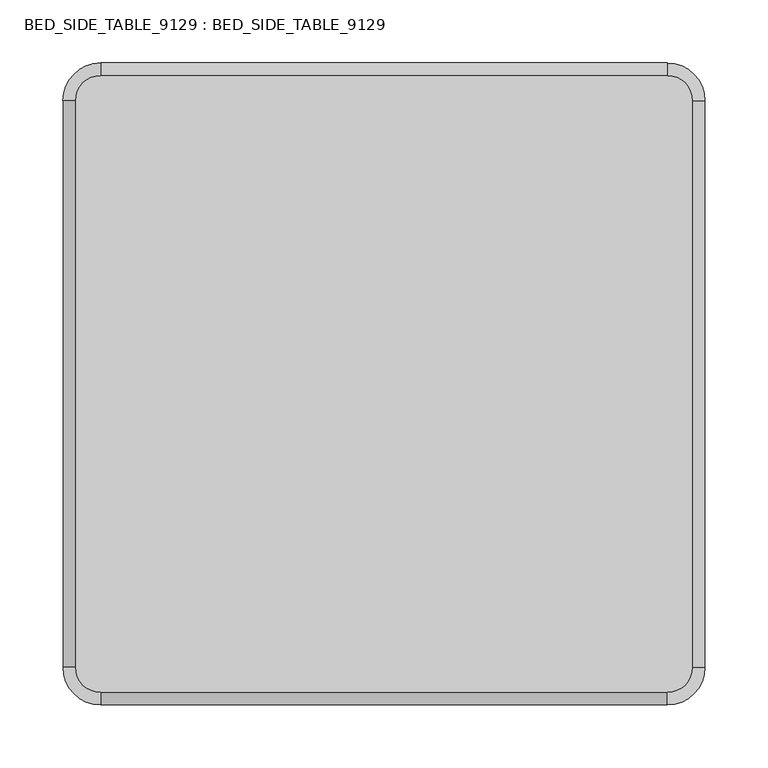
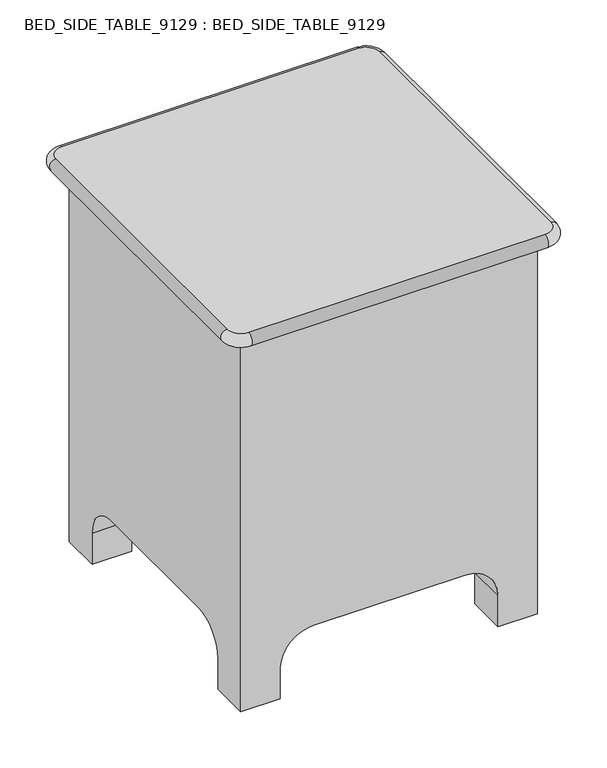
"""IFC4 building model written with IfcOpenShell, lengths in millimetres: furniture geometry, BED_SIDE_TABLE_9129 : BED_SIDE_TABLE_9129."""

from ifc_helpers import new_model, si_unit, point, frame, origin, place, context, project, spatial, polyline, circle_curve, ellipse_curve, trimmed, source, transform, mapped, element, save
from ifc_brep_helpers import plane_surface, cylinder_surface, revolved_surface, advanced_brep


def bed_side_table_9129_bed_side_table_9129_9961343a(model_context):
    return source(origin(), model_context, "Body", "AdvancedBrep", [
        advanced_brep(
        [(64.1710576, 203.2220246, 258.3333333), (64.1710576, 203.2220246, 250.9546193), (64.1710576, 203.2220246, 265.7120474), (11.6566154, 203.2220246, 250.9546193), (11.6566154, 203.2220246, 258.3333333), (11.6566154, 203.2220246, 265.7120474)],
        [
            (0, 1),
            (1, 2, circle_curve(frame((64.1710576, 203.2220246, 258.3333333), z_axis=(1.0, 0.0, 0.0), x_axis=(0.0, 0.0, 1.0)), 7.378714)),
            (2, 0),
            (2, 1, circle_curve(frame((64.1710576, 203.2220246, 258.3333333), z_axis=(1.0, 0.0, 0.0), x_axis=(0.0, 0.0, 1.0)), 7.378714)),
            (3, 4),
            (4, 5),
            (5, 3, circle_curve(frame((11.6566154, 203.2220246, 258.3333333), z_axis=(-1.0, 0.0, 0.0), x_axis=(0.0, 0.0, 1.0)), 7.378714)),
            (3, 5, circle_curve(frame((11.6566154, 203.2220246, 258.3333333), z_axis=(-1.0, 0.0, 0.0), x_axis=(0.0, 0.0, 1.0)), 7.378714)),
            (1, 3),
            (5, 2),
        ],
        [
            plane_surface(frame((64.1710576, 203.2220246, 258.3333333), z_axis=(1.0, 0.0, 0.0), x_axis=(0.0, 0.0, 1.0))),
            plane_surface(frame((11.6566154, 203.2220246, 258.3333333), z_axis=(-1.0, 0.0, 0.0), x_axis=(0.0, 0.0, 1.0))),
            cylinder_surface(frame((36.6566154, 203.2220246, 258.3333333), z_axis=(1.0, 0.0, 0.0), x_axis=(0.0, 0.0, 1.0)), 7.378714),
        ],
        [
            (0, [[1, 2, 3]]),
            (0, [[-3, 4, -1]]),
            (1, [[5, 6, 7]]),
            (1, [[-6, -5, 8]]),
            (2, [[9, -7, 10, -2]]),
            (2, [[-10, -8, -9, -4]]),
        ],
    ),
        advanced_brep(
        [(64.1710576, 203.2220246, 396.6666667), (64.1710576, 203.2220246, 389.2879526), (64.1710576, 203.2220246, 404.0453807), (11.6566154, 203.2220246, 389.2879526), (11.6566154, 203.2220246, 396.6666667), (11.6566154, 203.2220246, 404.0453807)],
        [
            (0, 1),
            (1, 2, circle_curve(frame((64.1710576, 203.2220246, 396.6666667), z_axis=(1.0, 0.0, 0.0), x_axis=(0.0, 0.0, 1.0)), 7.378714)),
            (2, 0),
            (2, 1, circle_curve(frame((64.1710576, 203.2220246, 396.6666667), z_axis=(1.0, 0.0, 0.0), x_axis=(0.0, 0.0, 1.0)), 7.378714)),
            (3, 4),
            (4, 5),
            (5, 3, circle_curve(frame((11.6566154, 203.2220246, 396.6666667), z_axis=(-1.0, 0.0, 0.0), x_axis=(0.0, 0.0, 1.0)), 7.378714)),
            (3, 5, circle_curve(frame((11.6566154, 203.2220246, 396.6666667), z_axis=(-1.0, 0.0, 0.0), x_axis=(0.0, 0.0, 1.0)), 7.378714)),
            (1, 3),
            (5, 2),
        ],
        [
            plane_surface(frame((64.1710576, 203.2220246, 396.6666667), z_axis=(1.0, 0.0, 0.0), x_axis=(0.0, 0.0, 1.0))),
            plane_surface(frame((11.6566154, 203.2220246, 396.6666667), z_axis=(-1.0, 0.0, 0.0), x_axis=(0.0, 0.0, 1.0))),
            cylinder_surface(frame((36.6566154, 203.2220246, 396.6666667), z_axis=(1.0, 0.0, 0.0), x_axis=(0.0, 0.0, 1.0)), 7.378714),
        ],
        [
            (0, [[1, 2, 3]]),
            (0, [[-3, 4, -1]]),
            (1, [[5, 6, 7]]),
            (1, [[-6, -5, 8]]),
            (2, [[9, -7, 10, -2]]),
            (2, [[-10, -8, -9, -4]]),
        ],
    ),
        advanced_brep(
        [(64.1710576, 203.2220246, 535.0), (64.1710576, 203.2220246, 527.621286), (64.1710576, 203.2220246, 542.378714), (11.6566154, 203.2220246, 527.621286), (11.6566154, 203.2220246, 535.0), (11.6566154, 203.2220246, 542.378714)],
        [
            (0, 1),
            (1, 2, circle_curve(frame((64.1710576, 203.2220246, 535.0), z_axis=(1.0, 0.0, 0.0), x_axis=(0.0, 0.0, 1.0)), 7.378714)),
            (2, 0),
            (2, 1, circle_curve(frame((64.1710576, 203.2220246, 535.0), z_axis=(1.0, 0.0, 0.0), x_axis=(0.0, 0.0, 1.0)), 7.378714)),
            (3, 4),
            (4, 5),
            (5, 3, circle_curve(frame((11.6566154, 203.2220246, 535.0), z_axis=(-1.0, 0.0, 0.0), x_axis=(0.0, 0.0, 1.0)), 7.378714)),
            (3, 5, circle_curve(frame((11.6566154, 203.2220246, 535.0), z_axis=(-1.0, 0.0, 0.0), x_axis=(0.0, 0.0, 1.0)), 7.378714)),
            (1, 3),
            (5, 2),
        ],
        [
            plane_surface(frame((64.1710576, 203.2220246, 535.0), z_axis=(1.0, 0.0, 0.0), x_axis=(0.0, 0.0, 1.0))),
            plane_surface(frame((11.6566154, 203.2220246, 535.0), z_axis=(-1.0, 0.0, 0.0), x_axis=(0.0, 0.0, 1.0))),
            cylinder_surface(frame((36.6566154, 203.2220246, 535.0), z_axis=(1.0, 0.0, 0.0), x_axis=(0.0, 0.0, 1.0)), 7.378714),
        ],
        [
            (0, [[1, 2, 3]]),
            (0, [[-3, 4, -1]]),
            (1, [[5, 6, 7]]),
            (1, [[-6, -5, 8]]),
            (2, [[9, -7, 10, -2]]),
            (2, [[-10, -8, -9, -4]]),
        ],
    ),
        advanced_brep(
        [(205.0, 177.5292073, 565.0), (-125.0, 177.5292073, 565.0), (-125.0, 177.5292073, 436.6666667), (205.0, 177.5292073, 436.6666667), (-105.5943818, 197.5292073, 545.5943818), (185.5943818, 197.5292073, 545.5943818), (185.5943818, 197.5292073, 456.0722849), (-105.5943818, 197.5292073, 456.0722849), (205.0, 182.3688336, 436.6666667), (205.0, 182.3688336, 565.0), (-125.0, 182.3688336, 436.6666667), (-125.0, 182.3688336, 565.0)],
        [
            (0, 1),
            (1, 2),
            (2, 3),
            (3, 0),
            (4, 5),
            (5, 6),
            (6, 7),
            (7, 4),
            (3, 8),
            (8, 9),
            (9, 0),
            (2, 10),
            (10, 8),
            (1, 11),
            (11, 10),
            (9, 11),
            (11, 4, ellipse_curve(frame((-105.5943818, 177.5292073, 545.5943818), z_axis=(-0.7071067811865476, 0.0, -0.7071067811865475), x_axis=(0.7071067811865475, 0.0, -0.7071067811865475)), 28.2842712, 20.0)),
            (7, 10, ellipse_curve(frame((-105.5943818, 177.5292073, 456.0722849), z_axis=(-0.7071067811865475, 0.0, 0.7071067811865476), x_axis=(-0.7071067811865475, 0.0, -0.7071067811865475)), 28.2842712, 20.0)),
            (6, 8, ellipse_curve(frame((185.5943818, 177.5292073, 456.0722849), z_axis=(-0.7071067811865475, 0.0, -0.7071067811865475), x_axis=(0.7071067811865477, 0.0, -0.7071067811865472)), 28.2842712, 20.0)),
            (5, 9, ellipse_curve(frame((185.5943818, 177.5292073, 545.5943818), z_axis=(0.7071067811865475, 0.0, -0.7071067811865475), x_axis=(0.7071067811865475, 0.0, 0.7071067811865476)), 28.2842712, 20.0)),
        ],
        [
            plane_surface(frame((205.0, 177.5292073, 565.0), z_axis=(0.0, -1.0, 0.0), x_axis=(0.0, 0.0, -1.0))),
            plane_surface(frame((205.0, 197.5292073, 565.0), z_axis=(0.0, 1.0, 0.0), x_axis=(0.0, 0.0, 1.0))),
            plane_surface(frame((205.0, 177.5292073, 565.0), z_axis=(1.0, 0.0, 0.0), x_axis=(0.0, 1.0, 0.0))),
            plane_surface(frame((205.0, 177.5292073, 436.6666667), z_axis=(0.0, 0.0, -1.0), x_axis=(0.0, 1.0, 0.0))),
            plane_surface(frame((-125.0, 177.5292073, 436.6666667), z_axis=(-1.0, 0.0, 0.0), x_axis=(0.0, 1.0, 0.0))),
            plane_surface(frame((-125.0, 177.5292073, 565.0), z_axis=(0.0, 0.0, 1.0), x_axis=(0.0, 1.0, 0.0))),
            cylinder_surface(frame((-105.5943818, 177.5292073, 565.0), z_axis=(0.0, 0.0, -1.0), x_axis=(0.0, 1.0, 0.0)), 20.0),
            cylinder_surface(frame((-125.0, 177.5292073, 456.0722849), z_axis=(1.0, 0.0, 0.0), x_axis=(0.0, 1.0, 0.0)), 20.0),
            cylinder_surface(frame((185.5943818, 177.5292073, 436.6666667), z_axis=(0.0, 0.0, 1.0), x_axis=(0.0, 1.0, 0.0)), 20.0),
            cylinder_surface(frame((205.0, 177.5292073, 545.5943818), z_axis=(-1.0, 0.0, 0.0), x_axis=(0.0, 1.0, 0.0)), 20.0),
        ],
        [
            (0, [[1, 2, 3, 4]]),
            (1, [[5, 6, 7, 8]]),
            (2, [[9, 10, 11, -4]]),
            (3, [[12, 13, -9, -3]]),
            (4, [[14, 15, -12, -2]]),
            (5, [[-11, 16, -14, -1]]),
            (6, [[-15, 17, -8, 18]]),
            (7, [[-13, -18, -7, 19]]),
            (8, [[-10, -19, -6, 20]]),
            (9, [[-5, -17, -16, -20]]),
        ],
    ),
        advanced_brep(
        [(-125.0, 177.5292073, 298.3333333), (205.0, 177.5292073, 298.3333333), (205.0, 177.5292073, 426.6666667), (-125.0, 177.5292073, 426.6666667), (-105.0, 197.5292073, 406.6666667), (185.0, 197.5292073, 406.6666667), (185.0, 197.5292073, 318.3333333), (-105.0, 197.5292073, 318.3333333)],
        [
            (0, 1),
            (1, 2),
            (2, 3),
            (3, 0),
            (4, 5),
            (5, 6),
            (6, 7),
            (7, 4),
            (3, 4, ellipse_curve(frame((-105.0, 177.5292073, 406.6666667), z_axis=(-0.7071067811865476, 0.0, -0.7071067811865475), x_axis=(0.7071067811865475, 0.0, -0.7071067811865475)), 28.2842712, 20.0)),
            (7, 0, ellipse_curve(frame((-105.0, 177.5292073, 318.3333333), z_axis=(-0.7071067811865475, 0.0, 0.7071067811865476), x_axis=(-0.7071067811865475, 0.0, -0.7071067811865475)), 28.2842712, 20.0)),
            (6, 1, ellipse_curve(frame((185.0, 177.5292073, 318.3333333), z_axis=(-0.7071067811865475, 0.0, -0.7071067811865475), x_axis=(0.7071067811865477, 0.0, -0.7071067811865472)), 28.2842712, 20.0)),
            (5, 2, ellipse_curve(frame((185.0, 177.5292073, 406.6666667), z_axis=(0.7071067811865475, 0.0, -0.7071067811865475), x_axis=(0.7071067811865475, 0.0, 0.7071067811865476)), 28.2842712, 20.0)),
        ],
        [
            plane_surface(frame((205.0, 177.5292073, 565.0), z_axis=(0.0, -1.0, 0.0), x_axis=(0.0, 0.0, -1.0))),
            plane_surface(frame((205.0, 197.5292073, 565.0), z_axis=(0.0, 1.0, 0.0), x_axis=(0.0, 0.0, 1.0))),
            cylinder_surface(frame((-105.0, 177.5292073, 426.6666667), z_axis=(0.0, 0.0, -1.0), x_axis=(0.0, 1.0, 0.0)), 20.0),
            cylinder_surface(frame((-125.0, 177.5292073, 318.3333333), z_axis=(1.0, 0.0, 0.0), x_axis=(0.0, 1.0, 0.0)), 20.0),
            cylinder_surface(frame((185.0, 177.5292073, 298.3333333), z_axis=(0.0, 0.0, 1.0), x_axis=(0.0, 1.0, 0.0)), 20.0),
            cylinder_surface(frame((205.0, 177.5292073, 406.6666667), z_axis=(-1.0, 0.0, 0.0), x_axis=(0.0, 1.0, 0.0)), 20.0),
        ],
        [
            (0, [[1, 2, 3, 4]]),
            (1, [[5, 6, 7, 8]]),
            (2, [[-4, 9, -8, 10]]),
            (3, [[-7, 11, -1, -10]]),
            (4, [[-6, 12, -2, -11]]),
            (5, [[-3, -12, -5, -9]]),
        ],
    ),
        advanced_brep(
        [(-125.0, 177.5292073, 155.0), (205.0, 177.5292073, 155.0), (205.0, 177.5292073, 288.3333333), (-125.0, 177.5292073, 288.3333333), (-105.0, 197.5292073, 268.3333333), (185.0, 197.5292073, 268.3333333), (185.0, 197.5292073, 175.0), (-105.0, 197.5292073, 175.0)],
        [
            (0, 1),
            (1, 2),
            (2, 3),
            (3, 0),
            (4, 5),
            (5, 6),
            (6, 7),
            (7, 4),
            (3, 4, ellipse_curve(frame((-105.0, 177.5292073, 268.3333333), z_axis=(-0.7071067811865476, 0.0, -0.7071067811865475), x_axis=(0.7071067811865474, 0.0, -0.7071067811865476)), 28.2842712, 20.0)),
            (7, 0, ellipse_curve(frame((-105.0, 177.5292073, 175.0), z_axis=(-0.7071067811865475, 0.0, 0.7071067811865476), x_axis=(-0.7071067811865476, 0.0, -0.7071067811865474)), 28.2842712, 20.0)),
            (6, 1, ellipse_curve(frame((185.0, 177.5292073, 175.0), z_axis=(-0.7071067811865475, 0.0, -0.7071067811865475), x_axis=(0.7071067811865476, 0.0, -0.7071067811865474)), 28.2842712, 20.0)),
            (5, 2, ellipse_curve(frame((185.0, 177.5292073, 268.3333333), z_axis=(0.7071067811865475, 0.0, -0.7071067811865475), x_axis=(0.7071067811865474, 0.0, 0.7071067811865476)), 28.2842712, 20.0)),
        ],
        [
            plane_surface(frame((205.0, 177.5292073, 565.0), z_axis=(0.0, -1.0, 0.0), x_axis=(0.0, 0.0, -1.0))),
            plane_surface(frame((205.0, 197.5292073, 565.0), z_axis=(0.0, 1.0, 0.0), x_axis=(0.0, 0.0, 1.0))),
            cylinder_surface(frame((-105.0, 177.5292073, 288.3333333), z_axis=(0.0, 0.0, -1.0), x_axis=(0.0, 1.0, 0.0)), 20.0),
            cylinder_surface(frame((-125.0, 177.5292073, 175.0), z_axis=(1.0, 0.0, 0.0), x_axis=(0.0, 1.0, 0.0)), 20.0),
            cylinder_surface(frame((185.0, 177.5292073, 155.0), z_axis=(0.0, 0.0, 1.0), x_axis=(0.0, 1.0, 0.0)), 20.0),
            cylinder_surface(frame((205.0, 177.5292073, 268.3333333), z_axis=(-1.0, 0.0, 0.0), x_axis=(0.0, 1.0, 0.0)), 20.0),
        ],
        [
            (0, [[1, 2, 3, 4]]),
            (1, [[5, 6, 7, 8]]),
            (2, [[-4, 9, -8, 10]]),
            (3, [[-7, 11, -1, -10]]),
            (4, [[-6, 12, -2, -11]]),
            (5, [[-3, -12, -5, -9]]),
        ],
    ),
        advanced_brep(
        [(-205.0, -262.4707927, 600.0), (-205.0, 187.5292073, 600.0), (-185.0, 207.5292073, 600.0), (265.0, 207.5292073, 600.0), (285.0, 187.5292073, 600.0), (285.0, -262.4707927, 600.0), (265.0, -282.4707927, 600.0), (-185.0, -282.4707927, 600.0), (-185.0, -282.4707927, 620.0), (265.0, -282.4707927, 620.0), (285.0, -262.4707927, 620.0), (285.0, 187.5292073, 620.0), (265.0, 207.5292073, 620.0), (-185.0, 207.5292073, 620.0), (-205.0, 187.5292073, 620.0), (-205.0, -262.4707927, 620.0), (-215.0, -262.4707927, 610.0000123), (-185.0, -292.4707927, 610.0000125), (-215.0, 187.5292073, 610.0), (-185.0, 217.5292073, 610.0000122), (265.0, 217.5292073, 610.0), (295.0, 187.5292073, 610.0000111), (295.0, -262.4707927, 610.0), (265.0, -292.4707927, 610.0000096)],
        [
            (0, 1),
            (1, 2, circle_curve(frame((-185.0, 187.5292073, 600.0), z_axis=(0.0, 0.0, -1.0), x_axis=(-1.0, 0.0, 0.0)), 20.0)),
            (2, 3),
            (3, 4, circle_curve(frame((265.0, 187.5292073, 600.0), z_axis=(0.0, 0.0, -1.0), x_axis=(0.0, 1.0, 0.0)), 20.0)),
            (4, 5),
            (5, 6, circle_curve(frame((265.0, -262.4707927, 600.0), z_axis=(0.0, 0.0, -1.0), x_axis=(1.0, 0.0, 0.0)), 20.0)),
            (6, 7),
            (7, 0, circle_curve(frame((-185.0, -262.4707927, 600.0), z_axis=(0.0, 0.0, -1.0), x_axis=(0.0, -1.0, 0.0)), 20.0)),
            (8, 9),
            (9, 10, circle_curve(frame((265.0, -262.4707927, 620.0), z_axis=(0.0, 0.0, 1.0), x_axis=(1.0, 0.0, 0.0)), 20.0)),
            (10, 11),
            (11, 12, circle_curve(frame((265.0, 187.5292073, 620.0), z_axis=(0.0, 0.0, 1.0), x_axis=(0.0, 1.0, 0.0)), 20.0)),
            (12, 13),
            (13, 14, circle_curve(frame((-185.0, 187.5292073, 620.0), z_axis=(0.0, 0.0, 1.0), x_axis=(-1.0, 0.0, 0.0)), 20.0)),
            (14, 15),
            (15, 8, circle_curve(frame((-185.0, -262.4707927, 620.0), z_axis=(0.0, 0.0, 1.0), x_axis=(0.0, -1.0, 0.0)), 20.0)),
            (15, 16, circle_curve(frame((-205.0, -262.4707927, 610.0), z_axis=(0.0, -1.0, 0.0), x_axis=(1.0, 0.0, 0.0)), 10.0)),
            (16, 0, circle_curve(frame((-205.0, -262.4707927, 610.0), z_axis=(0.0, -1.0, 0.0), x_axis=(1.0, 0.0, 0.0)), 10.0)),
            (7, 17, circle_curve(frame((-185.0, -282.4707927, 610.0), z_axis=(-1.0, 0.0, 0.0), x_axis=(0.0, 1.0, 0.0)), 10.0)),
            (17, 8, circle_curve(frame((-185.0, -282.4707927, 610.0), z_axis=(-1.0, 0.0, 0.0), x_axis=(0.0, 1.0, 0.0)), 10.0)),
            (14, 18, circle_curve(frame((-205.0, 187.5292073, 610.0), z_axis=(0.0, -1.0, 0.0), x_axis=(1.0, 0.0, 0.0)), 10.0)),
            (18, 1, circle_curve(frame((-205.0, 187.5292073, 610.0), z_axis=(0.0, -1.0, 0.0), x_axis=(1.0, 0.0, 0.0)), 10.0)),
            (13, 19, circle_curve(frame((-185.0, 207.5292073, 610.0), z_axis=(-1.0, 0.0, 0.0), x_axis=(0.0, -1.0, 0.0)), 10.0)),
            (19, 2, circle_curve(frame((-185.0, 207.5292073, 610.0), z_axis=(-1.0, 0.0, 0.0), x_axis=(0.0, -1.0, 0.0)), 10.0)),
            (12, 20, circle_curve(frame((265.0, 207.5292073, 610.0), z_axis=(-1.0, 0.0, 0.0), x_axis=(0.0, -1.0, 0.0)), 10.0)),
            (20, 3, circle_curve(frame((265.0, 207.5292073, 610.0), z_axis=(-1.0, 0.0, 0.0), x_axis=(0.0, -1.0, 0.0)), 10.0)),
            (11, 21, circle_curve(frame((285.0, 187.5292073, 610.0), z_axis=(0.0, 1.0, 0.0), x_axis=(-1.0, 0.0, 0.0)), 10.0)),
            (21, 4, circle_curve(frame((285.0, 187.5292073, 610.0), z_axis=(0.0, 1.0, 0.0), x_axis=(-1.0, 0.0, 0.0)), 10.0)),
            (10, 22, circle_curve(frame((285.0, -262.4707927, 610.0), z_axis=(0.0, 1.0, 0.0), x_axis=(-1.0, 0.0, 0.0)), 10.0)),
            (22, 5, circle_curve(frame((285.0, -262.4707927, 610.0), z_axis=(0.0, 1.0, 0.0), x_axis=(-1.0, 0.0, 0.0)), 10.0)),
            (9, 23, circle_curve(frame((265.0, -282.4707927, 610.0), z_axis=(1.0, 0.0, 0.0), x_axis=(0.0, 1.0, 0.0)), 10.0)),
            (23, 6, circle_curve(frame((265.0, -282.4707927, 610.0), z_axis=(1.0, 0.0, 0.0), x_axis=(0.0, 1.0, 0.0)), 10.0)),
        ],
        [
            plane_surface(frame((-185.0, -292.4707927, 600.0), z_axis=(0.0, 0.0, -1.0), x_axis=(1.0, 0.0, 0.0))),
            plane_surface(frame((-185.0, -292.4707927, 620.0), z_axis=(0.0, 0.0, 1.0), x_axis=(-1.0, 0.0, 0.0))),
            revolved_surface(trimmed(ellipse_curve(frame((-185.0, -282.4707927, 610.0), z_axis=(-1.0, 0.0, 0.0), x_axis=(0.0, 1.0, 0.0)), 10.0, 10.0), [point((-185.0, -282.4707927, 600.0))], [point((-185.0, -282.4707927, 620.0))], True, "CARTESIAN"), (-185.0, -262.4707927, 620.0), (0.0, 0.0, 1.0)),
            cylinder_surface(frame((-205.0, -262.4707927, 610.0), z_axis=(0.0, 1.0, 0.0), x_axis=(1.0, 0.0, 0.0)), 10.0),
            revolved_surface(trimmed(ellipse_curve(frame((-205.0, 187.5292073, 610.0), z_axis=(0.0, 1.0, 0.0), x_axis=(1.0, 0.0, 0.0)), 10.0, 10.0), [point((-205.0, 187.5292073, 600.0))], [point((-205.0, 187.5292073, 620.0))], True, "CARTESIAN"), (-185.0, 187.5292073, 620.0), (0.0, 0.0, 1.0)),
            cylinder_surface(frame((-185.0, 207.5292073, 610.0), z_axis=(1.0, 0.0, 0.0), x_axis=(0.0, -1.0, 0.0)), 10.0),
            revolved_surface(trimmed(ellipse_curve(frame((265.0, 207.5292073, 610.0), z_axis=(1.0, 0.0, 0.0), x_axis=(0.0, -1.0, 0.0)), 10.0, 10.0), [point((265.0, 207.5292073, 600.0))], [point((265.0, 207.5292073, 620.0))], True, "CARTESIAN"), (265.0, 187.5292073, 620.0), (0.0, 0.0, 1.0)),
            cylinder_surface(frame((285.0, 187.5292073, 610.0), z_axis=(0.0, -1.0, 0.0), x_axis=(-1.0, 0.0, 0.0)), 10.0),
            revolved_surface(trimmed(ellipse_curve(frame((285.0, -262.4707927, 610.0), z_axis=(0.0, -1.0, 0.0), x_axis=(-1.0, 0.0, 0.0)), 10.0, 10.0), [point((285.0, -262.4707927, 600.0))], [point((285.0, -262.4707927, 620.0))], True, "CARTESIAN"), (265.0, -262.4707927, 620.0), (0.0, 0.0, 1.0)),
            cylinder_surface(frame((265.0, -282.4707927, 610.0), z_axis=(-1.0, 0.0, 0.0), x_axis=(0.0, 1.0, 0.0)), 10.0),
        ],
        [
            (0, [[1, 2, 3, 4, 5, 6, 7, 8]]),
            (1, [[9, 10, 11, 12, 13, 14, 15, 16]]),
            (2, [[-16, 17, 18, -8, 19, 20]]),
            (3, [[-17, -15, 21, 22, -1, -18]]),
            (4, [[-21, -14, 23, 24, -2, -22]]),
            (5, [[-23, -13, 25, 26, -3, -24]]),
            (6, [[-25, -12, 27, 28, -4, -26]]),
            (7, [[-27, -11, 29, 30, -5, -28]]),
            (8, [[-6, -30, -29, -10, 31, 32]]),
            (9, [[-31, -9, -20, -19, -7, -32]]),
        ],
    ),
        advanced_brep(
        [(265.0, -262.4707927, 600.0), (-185.0, -262.4707927, 600.0), (-185.0, -262.4707927, 0.0), (-125.0, -262.4707927, 0.0), (-125.0, -262.4707927, 50.0), (-75.0, -262.4707927, 100.0), (155.0, -262.4707927, 100.0), (205.0, -262.4707927, 50.0), (205.0, -262.4707927, 0.0), (265.0, -262.4707927, 0.0), (265.0, 187.5292073, 600.0), (265.0, 187.5292073, 0.0), (205.0, 187.5292073, 0.0), (205.0, 187.5292073, 50.0), (155.0, 187.5292073, 100.0), (-75.0, 187.5292073, 100.0), (-125.0, 187.5292073, 50.0), (-125.0, 187.5292073, 0.0), (-185.0, 187.5292073, 0.0), (-185.0, 187.5292073, 600.0), (-145.0, 187.5292073, 580.0), (-145.0, 187.5292073, 130.0), (225.0, 187.5292073, 130.0), (225.0, 187.5292073, 580.0), (265.0, -202.4707927, 0.0), (265.0, -202.4707927, 50.0), (265.0, -152.4707927, 100.0), (265.0, 77.5292073, 100.0), (265.0, 127.5292073, 50.0), (265.0, 127.5292073, 0.0), (265.0, 102.5292073, 570.0), (265.0, 127.5292073, 545.0), (265.0, 127.5292073, 180.0), (265.0, 102.5292073, 155.0), (265.0, -177.4707927, 155.0), (265.0, -202.4707927, 180.0), (265.0, -202.4707927, 545.0), (265.0, -177.4707927, 570.0), (265.0, -177.4707927, 550.0), (265.0, -182.4707927, 545.0), (265.0, -182.4707927, 180.0), (265.0, -177.4707927, 175.0), (265.0, 102.5292073, 175.0), (265.0, 107.5292073, 180.0), (265.0, 107.5292073, 545.0), (265.0, 102.5292073, 550.0), (205.0, 127.5292073, 0.0), (-125.0, 127.5292073, 0.0), (-185.0, 127.5292073, 0.0), (205.0, -202.4707927, 0.0), (-185.0, -202.4707927, 0.0), (-125.0, -202.4707927, 0.0), (-185.0, 127.5292073, 50.0), (-185.0, 77.5292073, 100.0), (-185.0, -152.4707927, 100.0), (-185.0, -202.4707927, 50.0), (-75.0, 77.5292073, 100.0), (-125.0, 127.5292073, 50.0), (-125.0, -202.4707927, 50.0), (-75.0, -152.4707927, 100.0), (155.0, 77.5292073, 100.0), (155.0, -152.4707927, 100.0), (205.0, -202.4707927, 50.0), (205.0, 127.5292073, 50.0), (-145.0, 177.5292073, 580.0), (225.0, 177.5292073, 580.0), (225.0, 177.5292073, 130.0), (-145.0, 177.5292073, 130.0), (255.0, -177.4707927, 570.0), (255.0, -202.4707927, 545.0), (255.0, -202.4707927, 180.0), (255.0, -177.4707927, 155.0), (255.0, 102.5292073, 155.0), (255.0, 127.5292073, 180.0), (255.0, 127.5292073, 545.0), (255.0, 102.5292073, 570.0), (255.0, 102.5292073, 550.0), (255.0, 107.5292073, 545.0), (255.0, 107.5292073, 180.0), (255.0, 102.5292073, 175.0), (255.0, -177.4707927, 175.0), (255.0, -182.4707927, 180.0), (255.0, -182.4707927, 545.0), (255.0, -177.4707927, 550.0)],
        [
            (0, 1),
            (1, 2),
            (2, 3),
            (3, 4),
            (4, 5, circle_curve(frame((-75.0, -262.4707927, 50.0), z_axis=(0.0, 1.0, 0.0), x_axis=(-1.0, 0.0, 0.0)), 50.0)),
            (5, 6),
            (6, 7, circle_curve(frame((155.0, -262.4707927, 50.0), z_axis=(0.0, 1.0, 0.0), x_axis=(-1.0, 0.0, 0.0)), 50.0)),
            (7, 8),
            (8, 9),
            (9, 0),
            (10, 11),
            (11, 12),
            (12, 13),
            (13, 14, circle_curve(frame((155.0, 187.5292073, 50.0), z_axis=(0.0, -1.0, 0.0), x_axis=(-1.0, 0.0, 0.0)), 50.0)),
            (14, 15),
            (15, 16, circle_curve(frame((-75.0, 187.5292073, 50.0), z_axis=(0.0, -1.0, 0.0), x_axis=(-1.0, 0.0, 0.0)), 50.0)),
            (16, 17),
            (17, 18),
            (18, 19),
            (19, 10),
            (20, 21),
            (21, 22),
            (22, 23),
            (23, 20),
            (9, 24),
            (24, 25),
            (25, 26, circle_curve(frame((265.0, -152.4707927, 50.0), z_axis=(-1.0, 0.0, 0.0), x_axis=(0.0, -1.0, 0.0)), 50.0)),
            (26, 27),
            (27, 28, circle_curve(frame((265.0, 77.5292073, 50.0), z_axis=(-1.0, 0.0, 0.0), x_axis=(0.0, -1.0, 0.0)), 50.0)),
            (28, 29),
            (29, 11),
            (10, 0),
            (30, 31, circle_curve(frame((265.0, 102.5292073, 545.0), z_axis=(-1.0, 0.0, 0.0), x_axis=(0.0, -1.0, 0.0)), 25.0)),
            (31, 32),
            (32, 33, circle_curve(frame((265.0, 102.5292073, 180.0), z_axis=(-1.0, 0.0, 0.0), x_axis=(0.0, -1.0, 0.0)), 25.0)),
            (33, 34),
            (34, 35, circle_curve(frame((265.0, -177.4707927, 180.0), z_axis=(-1.0, 0.0, 0.0), x_axis=(0.0, -1.0, 0.0)), 25.0)),
            (35, 36),
            (36, 37, circle_curve(frame((265.0, -177.4707927, 545.0), z_axis=(-1.0, 0.0, 0.0), x_axis=(0.0, -1.0, 0.0)), 25.0)),
            (37, 30),
            (38, 39, circle_curve(frame((265.0, -177.4707927, 545.0), z_axis=(1.0, 0.0, 0.0), x_axis=(0.0, -1.0, 0.0)), 5.0)),
            (39, 40),
            (40, 41, circle_curve(frame((265.0, -177.4707927, 180.0), z_axis=(1.0, 0.0, 0.0), x_axis=(0.0, -1.0, 0.0)), 5.0)),
            (41, 42),
            (42, 43, circle_curve(frame((265.0, 102.5292073, 180.0), z_axis=(1.0, 0.0, 0.0), x_axis=(0.0, -1.0, 0.0)), 5.0)),
            (43, 44),
            (44, 45, circle_curve(frame((265.0, 102.5292073, 545.0), z_axis=(1.0, 0.0, 0.0), x_axis=(0.0, -1.0, 0.0)), 5.0)),
            (45, 38),
            (29, 46),
            (46, 12),
            (17, 47),
            (47, 48),
            (48, 18),
            (8, 49),
            (49, 24),
            (2, 50),
            (50, 51),
            (51, 3),
            (1, 19),
            (48, 52),
            (52, 53, circle_curve(frame((-185.0, 77.5292073, 50.0), z_axis=(1.0, 0.0, 0.0), x_axis=(0.0, -1.0, 0.0)), 50.0)),
            (53, 54),
            (54, 55, circle_curve(frame((-185.0, -152.4707927, 50.0), z_axis=(1.0, 0.0, 0.0), x_axis=(0.0, -1.0, 0.0)), 50.0)),
            (55, 50),
            (15, 56),
            (56, 57, ellipse_curve(frame((-75.0, 77.5292073, 50.0), z_axis=(-0.7071067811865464, -0.7071067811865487, 0.0), x_axis=(0.7071067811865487, -0.7071067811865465, 0.0)), 70.7106781, 50.0)),
            (57, 16),
            (4, 58),
            (58, 59, ellipse_curve(frame((-75.0, -152.4707927, 50.0), z_axis=(-0.7071067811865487, 0.7071067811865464, 0.0), x_axis=(-0.7071067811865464, -0.7071067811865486, 0.0)), 70.7106781, 50.0)),
            (59, 5),
            (59, 54),
            (53, 56),
            (14, 60),
            (60, 27),
            (26, 61),
            (61, 6),
            (61, 62, ellipse_curve(frame((155.0, -152.4707927, 50.0), z_axis=(0.7071067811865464, 0.7071067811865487, 0.0), x_axis=(0.7071067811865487, -0.7071067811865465, 0.0)), 70.7106781, 50.0)),
            (62, 7),
            (13, 63),
            (63, 60, ellipse_curve(frame((155.0, 77.5292073, 50.0), z_axis=(0.7071067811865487, -0.7071067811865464, 0.0), x_axis=(-0.7071067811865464, -0.7071067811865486, 0.0)), 70.7106781, 50.0)),
            (46, 63),
            (62, 49),
            (51, 58),
            (57, 47),
            (52, 57),
            (63, 28),
            (62, 25),
            (55, 58),
            (64, 65),
            (65, 66),
            (66, 67),
            (67, 64),
            (64, 20),
            (23, 65),
            (22, 66),
            (21, 67),
            (68, 69, circle_curve(frame((255.0, -177.4707927, 545.0), z_axis=(1.0, 0.0, 0.0), x_axis=(0.0, -1.0, 0.0)), 25.0)),
            (69, 70),
            (70, 71, circle_curve(frame((255.0, -177.4707927, 180.0), z_axis=(1.0, 0.0, 0.0), x_axis=(0.0, -1.0, 0.0)), 25.0)),
            (71, 72),
            (72, 73, circle_curve(frame((255.0, 102.5292073, 180.0), z_axis=(1.0, 0.0, 0.0), x_axis=(0.0, -1.0, 0.0)), 25.0)),
            (73, 74),
            (74, 75, circle_curve(frame((255.0, 102.5292073, 545.0), z_axis=(1.0, 0.0, 0.0), x_axis=(0.0, -1.0, 0.0)), 25.0)),
            (75, 68),
            (76, 77, circle_curve(frame((255.0, 102.5292073, 545.0), z_axis=(-1.0, 0.0, 0.0), x_axis=(0.0, -1.0, 0.0)), 5.0)),
            (77, 78),
            (78, 79, circle_curve(frame((255.0, 102.5292073, 180.0), z_axis=(-1.0, 0.0, 0.0), x_axis=(0.0, -1.0, 0.0)), 5.0)),
            (79, 80),
            (80, 81, circle_curve(frame((255.0, -177.4707927, 180.0), z_axis=(-1.0, 0.0, 0.0), x_axis=(0.0, -1.0, 0.0)), 5.0)),
            (81, 82),
            (82, 83, circle_curve(frame((255.0, -177.4707927, 545.0), z_axis=(-1.0, 0.0, 0.0), x_axis=(0.0, -1.0, 0.0)), 5.0)),
            (83, 76),
            (75, 30),
            (37, 68),
            (74, 31),
            (73, 32),
            (72, 33),
            (71, 34),
            (70, 35),
            (69, 36),
            (83, 38),
            (45, 76),
            (82, 39),
            (81, 40),
            (80, 41),
            (79, 42),
            (78, 43),
            (77, 44),
        ],
        [
            plane_surface(frame((265.0, -262.4707927, 600.0), z_axis=(0.0, -1.0, 0.0), x_axis=(0.0, 0.0, -1.0))),
            plane_surface(frame((265.0, 187.5292073, 600.0), z_axis=(0.0, 1.0, 0.0), x_axis=(0.0, 0.0, 1.0))),
            plane_surface(frame((265.0, -262.4707927, 600.0), z_axis=(1.0, 0.0, 0.0), x_axis=(0.0, 1.0, 0.0))),
            plane_surface(frame((265.0, -262.4707927, 0.0), z_axis=(0.0, 0.0, -1.0), x_axis=(0.0, 1.0, 0.0))),
            plane_surface(frame((-185.0, -262.4707927, 0.0), z_axis=(-1.0, 0.0, 0.0), x_axis=(0.0, 1.0, 0.0))),
            plane_surface(frame((-185.0, -262.4707927, 600.0), z_axis=(0.0, 0.0, 1.0), x_axis=(0.0, 1.0, 0.0))),
            revolved_surface(polyline([(-125.0, 27.529207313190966, 50.0), (-125.0, 187.5292073, 50.0)]), (-75.0, 187.5292073, 50.0), (0.0, -1.0, 0.0)),
            revolved_surface(polyline([(-125.0, -262.4707927, 50.0), (-125.0, -102.47079271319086, 50.0)]), (-75.0, 187.5292073, 50.0), (0.0, -1.0, 0.0)),
            plane_surface(frame((-75.0, -287.4707927, 100.0), z_axis=(0.0, 0.0, -1.0), x_axis=(0.0, 1.0, 0.0))),
            revolved_surface(polyline([(105.0, -262.4707927, 50.0), (105.0, -102.47079271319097, 50.0)]), (155.0, 187.5292073, 50.0), (0.0, -1.0, 0.0)),
            revolved_surface(polyline([(105.0, 27.529207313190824, 50.0), (105.0, 187.5292073, 50.0)]), (155.0, 187.5292073, 50.0), (0.0, -1.0, 0.0)),
            plane_surface(frame((205.0, -287.4707927, 50.0), z_axis=(-1.0, 0.0, 0.0), x_axis=(0.0, 1.0, 0.0))),
            plane_surface(frame((-125.0, -287.4707927, 0.0), z_axis=(1.0, 0.0, 0.0), x_axis=(0.0, 1.0, 0.0))),
            revolved_surface(polyline([(-25.000000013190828, 27.529207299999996, 50.0), (-185.0, 27.529207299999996, 50.0)]), (-185.0, 77.5292073, 50.0), (1.0, 0.0, 0.0)),
            revolved_surface(polyline([(265.0, 27.529207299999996, 50.0), (105.00000001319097, 27.529207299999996, 50.0)]), (-185.0, 77.5292073, 50.0), (1.0, 0.0, 0.0)),
            plane_surface(frame((265.0, 127.5292073, 50.0), z_axis=(0.0, -1.0, 0.0), x_axis=(-1.0, 0.0, 0.0))),
            plane_surface(frame((265.0, -202.4707927, 0.0), z_axis=(0.0, 1.0, 0.0), x_axis=(-1.0, 0.0, 0.0))),
            revolved_surface(polyline([(265.0, -202.4707927, 50.0), (105.0000000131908, -202.4707927, 50.0)]), (-185.0, -152.4707927, 50.0), (1.0, 0.0, 0.0)),
            revolved_surface(polyline([(-25.000000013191, -202.4707927, 50.0), (-185.0, -202.4707927, 50.0)]), (-185.0, -152.4707927, 50.0), (1.0, 0.0, 0.0)),
            plane_surface(frame((-145.0, 177.5292073, 580.0), z_axis=(0.0, 1.0, 0.0), x_axis=(1.0, 0.0, 0.0))),
            plane_surface(frame((-145.0, 177.5292073, 580.0), z_axis=(0.0, 0.0, -1.0), x_axis=(0.0, 1.0, 0.0))),
            plane_surface(frame((225.0, 177.5292073, 580.0), z_axis=(-1.0, 0.0, 0.0), x_axis=(0.0, 1.0, 0.0))),
            plane_surface(frame((225.0, 177.5292073, 130.0), z_axis=(0.0, 0.0, 1.0), x_axis=(0.0, 1.0, 0.0))),
            plane_surface(frame((-145.0, 177.5292073, 130.0), z_axis=(1.0, 0.0, 0.0), x_axis=(0.0, 1.0, 0.0))),
            plane_surface(frame((255.0, 102.5292073, 570.0), z_axis=(1.0, 0.0, 0.0), x_axis=(0.0, -1.0, 0.0))),
            plane_surface(frame((265.0, -177.4707927, 570.0), z_axis=(0.0, 0.0, -1.0), x_axis=(-1.0, 0.0, 0.0))),
            revolved_surface(polyline([(265.0, 77.5292073, 545.0), (255.0, 77.5292073, 545.0)]), (255.0, 102.5292073, 545.0), (1.0, 0.0, 0.0)),
            plane_surface(frame((265.0, 127.5292073, 545.0), z_axis=(0.0, -1.0, 0.0), x_axis=(-1.0, 0.0, 0.0))),
            revolved_surface(polyline([(265.0, 77.5292073, 180.0), (255.0, 77.5292073, 180.0)]), (255.0, 102.5292073, 180.0), (1.0, 0.0, 0.0)),
            plane_surface(frame((265.0, 102.5292073, 155.0), z_axis=(0.0, 0.0, 1.0), x_axis=(-1.0, 0.0, 0.0))),
            revolved_surface(polyline([(265.0, -202.4707927, 180.0), (255.0, -202.4707927, 180.0)]), (255.0, -177.4707927, 180.0), (1.0, 0.0, 0.0)),
            plane_surface(frame((265.0, -202.4707927, 180.0), z_axis=(0.0, 1.0, 0.0), x_axis=(-1.0, 0.0, 0.0))),
            revolved_surface(polyline([(265.0, -202.4707927, 545.0), (255.0, -202.4707927, 545.0)]), (255.0, -177.4707927, 545.0), (1.0, 0.0, 0.0)),
            plane_surface(frame((265.0, 102.5292073, 550.0), z_axis=(0.0, 0.0, 1.0), x_axis=(-1.0, 0.0, 0.0))),
            cylinder_surface(frame((265.0, -177.4707927, 545.0), z_axis=(-1.0, 0.0, 0.0), x_axis=(0.0, -1.0, 0.0)), 5.0),
            plane_surface(frame((265.0, -182.4707927, 545.0), z_axis=(0.0, -1.0, 0.0), x_axis=(-1.0, 0.0, 0.0))),
            cylinder_surface(frame((265.0, -177.4707927, 180.0), z_axis=(-1.0, 0.0, 0.0), x_axis=(0.0, -1.0, 0.0)), 5.0),
            plane_surface(frame((265.0, -177.4707927, 175.0), z_axis=(0.0, 0.0, -1.0), x_axis=(-1.0, 0.0, 0.0))),
            cylinder_surface(frame((265.0, 102.5292073, 180.0), z_axis=(-1.0, 0.0, 0.0), x_axis=(0.0, -1.0, 0.0)), 5.0),
            plane_surface(frame((265.0, 107.5292073, 180.0), z_axis=(0.0, 1.0, 0.0), x_axis=(-1.0, 0.0, 0.0))),
            cylinder_surface(frame((265.0, 102.5292073, 545.0), z_axis=(-1.0, 0.0, 0.0), x_axis=(0.0, -1.0, 0.0)), 5.0),
        ],
        [
            (0, [[1, 2, 3, 4, 5, 6, 7, 8, 9, 10]]),
            (1, [[11, 12, 13, 14, 15, 16, 17, 18, 19, 20], [21, 22, 23, 24]]),
            (2, [[25, 26, 27, 28, 29, 30, 31, -11, 32, -10], [33, 34, 35, 36, 37, 38, 39, 40]]),
            (2, [[41, 42, 43, 44, 45, 46, 47, 48]]),
            (3, [[-31, 49, 50, -12]]),
            (3, [[51, 52, 53, -18]]),
            (3, [[54, 55, -25, -9]]),
            (3, [[56, 57, 58, -3]]),
            (4, [[59, -19, -53, 60, 61, 62, 63, 64, -56, -2]]),
            (5, [[-32, -20, -59, -1]]),
            (6, [[65, 66, 67, -16]]),
            (7, [[68, 69, 70, -5]]),
            (8, [[-70, 71, -62, 72, -65, -15, 73, 74, -28, 75, 76, -6]]),
            (9, [[-76, 77, 78, -7]]),
            (10, [[79, 80, -73, -14]]),
            (11, [[-50, 81, -79, -13]]),
            (11, [[-78, 82, -54, -8]]),
            (12, [[-58, 83, -68, -4]]),
            (12, [[-67, 84, -51, -17]]),
            (13, [[-66, -72, -61, 85]]),
            (14, [[-80, 86, -29, -74]]),
            (15, [[-60, -52, -84, -85]]),
            (15, [[-81, -49, -30, -86]]),
            (16, [[-26, -55, -82, 87]]),
            (16, [[-83, -57, -64, 88]]),
            (17, [[-27, -87, -77, -75]]),
            (18, [[-63, -71, -69, -88]]),
            (19, [[89, 90, 91, 92]]),
            (20, [[93, -24, 94, -89]]),
            (21, [[-94, -23, 95, -90]]),
            (22, [[-95, -22, 96, -91]]),
            (23, [[-96, -21, -93, -92]]),
            (24, [[97, 98, 99, 100, 101, 102, 103, 104], [105, 106, 107, 108, 109, 110, 111, 112]]),
            (25, [[113, -40, 114, -104]]),
            (26, [[115, -33, -113, -103]]),
            (27, [[116, -34, -115, -102]]),
            (28, [[117, -35, -116, -101]]),
            (29, [[118, -36, -117, -100]]),
            (30, [[119, -37, -118, -99]]),
            (31, [[120, -38, -119, -98]]),
            (32, [[-114, -39, -120, -97]]),
            (33, [[121, -48, 122, -112]]),
            (34, [[123, -41, -121, -111]]),
            (35, [[124, -42, -123, -110]]),
            (36, [[125, -43, -124, -109]]),
            (37, [[126, -44, -125, -108]]),
            (38, [[127, -45, -126, -107]]),
            (39, [[128, -46, -127, -106]]),
            (40, [[-122, -47, -128, -105]]),
        ],
    ),
    ])


if __name__ == "__main__":
    model = new_model("IFC4")
    model_context = context("Model", 3, world=origin())
    ifc_project = project(units=[si_unit("LENGTHUNIT", "METRE", prefix="MILLI")], contexts=[model_context])
    site = spatial("IfcSite", under=ifc_project)
    building = spatial("IfcBuilding", under=site)
    placement = place(None, origin())
    bed_side_table_9129_bed_side_table_9129_shape = bed_side_table_9129_bed_side_table_9129_9961343a(model_context)
    element("IfcFurniture", 1, ObjectType="BED_SIDE_TABLE_9129 : BED_SIDE_TABLE_9129", at=placement, inside=building, context=model_context, shape_type="MappedRepresentation", body=[
        mapped(bed_side_table_9129_bed_side_table_9129_shape, transform((0.0, 0.0, 0.0), x_axis=(1.0, 0.0, 0.0), y_axis=(0.0, 1.0, 0.0), z_axis=(0.0, 0.0, 1.0))),
    ])
    save(model, "model.ifc")
